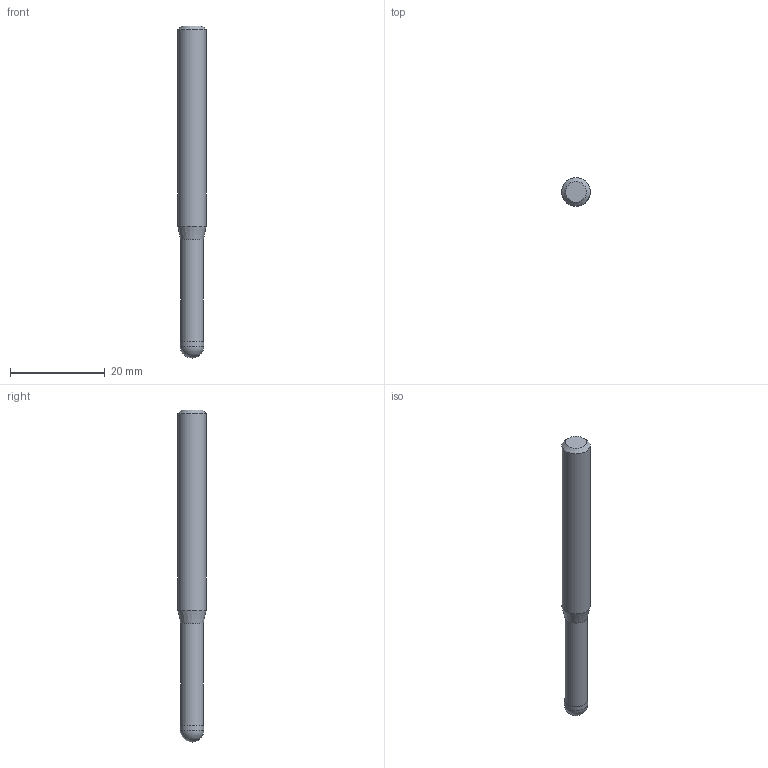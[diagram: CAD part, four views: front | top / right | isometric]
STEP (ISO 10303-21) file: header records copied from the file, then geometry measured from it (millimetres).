
FILE_DESCRIPTION((''),'2;1');
FILE_NAME('C:\Users\nsx150\AppData\Local\Temp\Mastercam 2021\3SYKECWX22\TEMP.step','2021-04-22T10:05:43',(''),(''),'STEP Write','Mastercam 2021 ... CNC Software, Inc.','');
FILE_SCHEMA(('AUTOMOTIVE_DESIGN'));
Length unit declared in the file: millimetre
Products named in the file (1): None
Bounding box: 6 x 6 x 70 mm (x, y, z)
Volume: 1693.4 mm3; surface area: 1279.5 mm2
Topology: 2 solids, 2 shells, 9 faces, 14 edges, 8 vertices
Faces by surface type: plane 3, cylinder 3, cone 2, sphere 1
Full cylindrical faces by diameter (mm): 4.8 x1, 5 x1, 6 x1
Entity records: 211 total; most frequent: DIRECTION 36, CARTESIAN_POINT 25, AXIS2_PLACEMENT_3D 18, ORIENTED_EDGE 14, EDGE_LOOP 14, STYLED_ITEM 12, ADVANCED_FACE 9, FACE_BOUND 8
